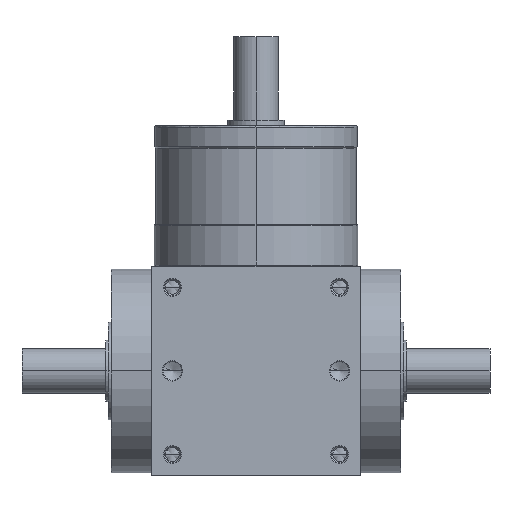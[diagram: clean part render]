
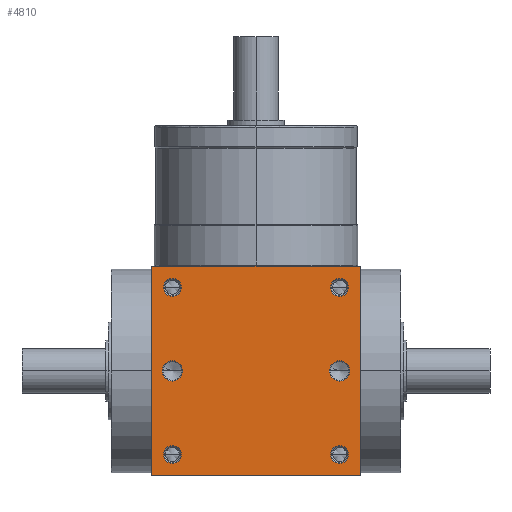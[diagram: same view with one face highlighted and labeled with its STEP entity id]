
A CAD part, front view. The second image highlights one B-rep face of the part: STEP entity #4810.
In plain terms, the highlighted planar face has unit normal (0, -1, 0).
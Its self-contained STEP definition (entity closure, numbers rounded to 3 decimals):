
#5=DIRECTION('',(1.,0.,0.));
#6=VECTOR('',#5,75.);
#7=CARTESIAN_POINT('',(-37.5,-37.5,-37.5));
#8=LINE('',#7,#6);
#155=DIRECTION('',(0.,0.,1.));
#156=VECTOR('',#155,75.);
#157=CARTESIAN_POINT('',(37.5,-37.5,-37.5));
#158=LINE('',#157,#156);
#209=DIRECTION('',(0.,0.,1.));
#210=VECTOR('',#209,75.);
#211=CARTESIAN_POINT('',(-37.5,-37.5,-37.5));
#212=LINE('',#211,#210);
#213=CARTESIAN_POINT('',(30.,-37.5,30.));
#214=DIRECTION('',(0.,1.,0.));
#215=DIRECTION('',(-1.,0.,0.));
#216=AXIS2_PLACEMENT_3D('',#213,#214,#215);
#218=CARTESIAN_POINT('',(30.,-37.5,30.));
#219=DIRECTION('',(0.,1.,0.));
#220=DIRECTION('',(1.,0.,0.));
#221=AXIS2_PLACEMENT_3D('',#218,#219,#220);
#223=CARTESIAN_POINT('',(-30.,-37.5,30.));
#224=DIRECTION('',(0.,1.,0.));
#225=DIRECTION('',(-1.,0.,0.));
#226=AXIS2_PLACEMENT_3D('',#223,#224,#225);
#228=CARTESIAN_POINT('',(-30.,-37.5,30.));
#229=DIRECTION('',(0.,1.,0.));
#230=DIRECTION('',(1.,0.,0.));
#231=AXIS2_PLACEMENT_3D('',#228,#229,#230);
#233=CARTESIAN_POINT('',(30.,-37.5,-30.));
#234=DIRECTION('',(0.,1.,0.));
#235=DIRECTION('',(-1.,0.,0.));
#236=AXIS2_PLACEMENT_3D('',#233,#234,#235);
#238=CARTESIAN_POINT('',(30.,-37.5,-30.));
#239=DIRECTION('',(0.,1.,0.));
#240=DIRECTION('',(1.,0.,0.));
#241=AXIS2_PLACEMENT_3D('',#238,#239,#240);
#243=CARTESIAN_POINT('',(-30.,-37.5,-30.));
#244=DIRECTION('',(0.,1.,0.));
#245=DIRECTION('',(-1.,0.,0.));
#246=AXIS2_PLACEMENT_3D('',#243,#244,#245);
#248=CARTESIAN_POINT('',(-30.,-37.5,-30.));
#249=DIRECTION('',(0.,1.,0.));
#250=DIRECTION('',(1.,0.,0.));
#251=AXIS2_PLACEMENT_3D('',#248,#249,#250);
#253=CARTESIAN_POINT('',(-30.,-37.5,0.));
#254=DIRECTION('',(0.,1.,0.));
#255=DIRECTION('',(1.,0.,0.));
#256=AXIS2_PLACEMENT_3D('',#253,#254,#255);
#258=CARTESIAN_POINT('',(-30.,-37.5,0.));
#259=DIRECTION('',(0.,1.,0.));
#260=DIRECTION('',(-1.,0.,0.));
#261=AXIS2_PLACEMENT_3D('',#258,#259,#260);
#263=CARTESIAN_POINT('',(30.,-37.5,0.));
#264=DIRECTION('',(0.,1.,0.));
#265=DIRECTION('',(1.,0.,0.));
#266=AXIS2_PLACEMENT_3D('',#263,#264,#265);
#268=CARTESIAN_POINT('',(30.,-37.5,0.));
#269=DIRECTION('',(0.,1.,0.));
#270=DIRECTION('',(-1.,0.,0.));
#271=AXIS2_PLACEMENT_3D('',#268,#269,#270);
#285=DIRECTION('',(1.,0.,0.));
#286=VECTOR('',#285,75.);
#287=CARTESIAN_POINT('',(-37.5,-37.5,37.5));
#288=LINE('',#287,#286);
#3846=CARTESIAN_POINT('',(-37.5,-37.5,-37.5));
#3848=VERTEX_POINT('',#3846);
#3849=CARTESIAN_POINT('',(37.5,-37.5,-37.5));
#3850=VERTEX_POINT('',#3849);
#3854=CARTESIAN_POINT('',(-37.5,-37.5,37.5));
#3856=VERTEX_POINT('',#3854);
#3857=CARTESIAN_POINT('',(37.5,-37.5,37.5));
#3858=VERTEX_POINT('',#3857);
#4037=CARTESIAN_POINT('',(26.8,-37.5,30.));
#4038=CARTESIAN_POINT('',(33.2,-37.5,30.));
#4039=VERTEX_POINT('',#4037);
#4040=VERTEX_POINT('',#4038);
#4045=CARTESIAN_POINT('',(-33.2,-37.5,30.));
#4046=CARTESIAN_POINT('',(-26.8,-37.5,30.));
#4047=VERTEX_POINT('',#4045);
#4048=VERTEX_POINT('',#4046);
#4053=CARTESIAN_POINT('',(26.8,-37.5,-30.));
#4054=CARTESIAN_POINT('',(33.2,-37.5,-30.));
#4055=VERTEX_POINT('',#4053);
#4056=VERTEX_POINT('',#4054);
#4061=CARTESIAN_POINT('',(-33.2,-37.5,-30.));
#4062=CARTESIAN_POINT('',(-26.8,-37.5,-30.));
#4063=VERTEX_POINT('',#4061);
#4064=VERTEX_POINT('',#4062);
#4421=CARTESIAN_POINT('',(-26.35,-37.5,
0.));
#4422=CARTESIAN_POINT('',(-33.65,-37.5,
0.));
#4423=VERTEX_POINT('',#4421);
#4424=VERTEX_POINT('',#4422);
#4429=CARTESIAN_POINT('',(33.65,-37.5,0.));
#4430=CARTESIAN_POINT('',(26.35,-37.5,0.));
#4431=VERTEX_POINT('',#4429);
#4432=VERTEX_POINT('',#4430);
#4762=CARTESIAN_POINT('',(-37.5,-37.5,-37.5));
#4763=DIRECTION('',(0.,-1.,0.));
#4764=DIRECTION('',(1.,0.,0.));
#4765=AXIS2_PLACEMENT_3D('',#4762,#4763,#4764);
#4766=PLANE('',#4765);
#4767=ORIENTED_EDGE('',*,*,#4602,.F.);
#4768=ORIENTED_EDGE('',*,*,#4645,.T.);
#4770=ORIENTED_EDGE('',*,*,#4769,.T.);
#4771=ORIENTED_EDGE('',*,*,#4724,.F.);
#4772=EDGE_LOOP('',(#4767,#4768,#4770,#4771));
#4773=FACE_OUTER_BOUND('',#4772,.F.);
#4775=ORIENTED_EDGE('',*,*,#4774,.F.);
#4777=ORIENTED_EDGE('',*,*,#4776,.F.);
#4778=EDGE_LOOP('',(#4775,#4777));
#4779=FACE_BOUND('',#4778,.F.);
#4781=ORIENTED_EDGE('',*,*,#4780,.F.);
#4783=ORIENTED_EDGE('',*,*,#4782,.F.);
#4784=EDGE_LOOP('',(#4781,#4783));
#4785=FACE_BOUND('',#4784,.F.);
#4787=ORIENTED_EDGE('',*,*,#4786,.F.);
#4789=ORIENTED_EDGE('',*,*,#4788,.F.);
#4790=EDGE_LOOP('',(#4787,#4789));
#4791=FACE_BOUND('',#4790,.F.);
#4793=ORIENTED_EDGE('',*,*,#4792,.F.);
#4795=ORIENTED_EDGE('',*,*,#4794,.F.);
#4796=EDGE_LOOP('',(#4793,#4795));
#4797=FACE_BOUND('',#4796,.F.);
#4799=ORIENTED_EDGE('',*,*,#4798,.F.);
#4801=ORIENTED_EDGE('',*,*,#4800,.F.);
#4802=EDGE_LOOP('',(#4799,#4801));
#4803=FACE_BOUND('',#4802,.F.);
#4805=ORIENTED_EDGE('',*,*,#4804,.F.);
#4807=ORIENTED_EDGE('',*,*,#4806,.F.);
#4808=EDGE_LOOP('',(#4805,#4807));
#4809=FACE_BOUND('',#4808,.F.);
#4810=ADVANCED_FACE('',(#4773,#4779,#4785,#4791,#4797,#4803,#4809),#4766,.T.);
#217=CIRCLE('',#216,3.2);
#222=CIRCLE('',#221,3.2);
#227=CIRCLE('',#226,3.2);
#232=CIRCLE('',#231,3.2);
#237=CIRCLE('',#236,3.2);
#242=CIRCLE('',#241,3.2);
#247=CIRCLE('',#246,3.2);
#252=CIRCLE('',#251,3.2);
#257=CIRCLE('',#256,3.65);
#262=CIRCLE('',#261,3.65);
#267=CIRCLE('',#266,3.65);
#272=CIRCLE('',#271,3.65);
#4602=EDGE_CURVE('',#3848,#3850,#8,.T.);
#4645=EDGE_CURVE('',#3848,#3856,#212,.T.);
#4724=EDGE_CURVE('',#3850,#3858,#158,.T.);
#4769=EDGE_CURVE('',#3856,#3858,#288,.T.);
#4774=EDGE_CURVE('',#4039,#4040,#217,.T.);
#4776=EDGE_CURVE('',#4040,#4039,#222,.T.);
#4780=EDGE_CURVE('',#4047,#4048,#227,.T.);
#4782=EDGE_CURVE('',#4048,#4047,#232,.T.);
#4786=EDGE_CURVE('',#4055,#4056,#237,.T.);
#4788=EDGE_CURVE('',#4056,#4055,#242,.T.);
#4792=EDGE_CURVE('',#4063,#4064,#247,.T.);
#4794=EDGE_CURVE('',#4064,#4063,#252,.T.);
#4798=EDGE_CURVE('',#4423,#4424,#257,.T.);
#4800=EDGE_CURVE('',#4424,#4423,#262,.T.);
#4804=EDGE_CURVE('',#4431,#4432,#267,.T.);
#4806=EDGE_CURVE('',#4432,#4431,#272,.T.);
